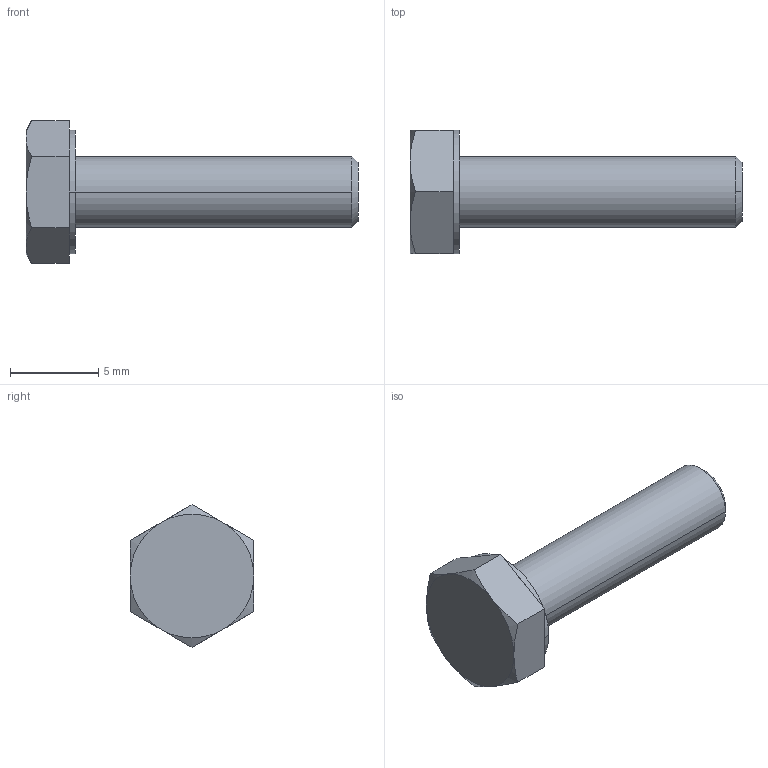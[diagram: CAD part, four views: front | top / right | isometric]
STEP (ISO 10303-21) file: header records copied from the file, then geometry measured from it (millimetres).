
FILE_DESCRIPTION((''),'2;1');
FILE_NAME('HEX_BOLT_M4X16','2025-07-21T10:55:14',('tilla'),(''),'CREO PARAMETRIC BY PTC INC, 2024063','CREO PARAMETRIC BY PTC INC, 2024063','');
FILE_SCHEMA(('CONFIG_CONTROL_DESIGN'));
Length unit declared in the file: millimetre
Products named in the file (1): HEX_BOLT_M4X16
Bounding box: 18.8 x 7 x 8.08 mm (x, y, z)
Volume: 317.4 mm3; surface area: 518.2 mm2
Topology: 1 solids, 2 shells, 30 faces, 66 edges, 40 vertices
Faces by surface type: plane 16, cone 8, cylinder 6
Entity records: 884 total; most frequent: CARTESIAN_POINT 179, DIRECTION 144, ORIENTED_EDGE 128, EDGE_CURVE 66, AXIS2_PLACEMENT_3D 59, VERTEX_POINT 40, EDGE_LOOP 32, FACE_OUTER_BOUND 30
